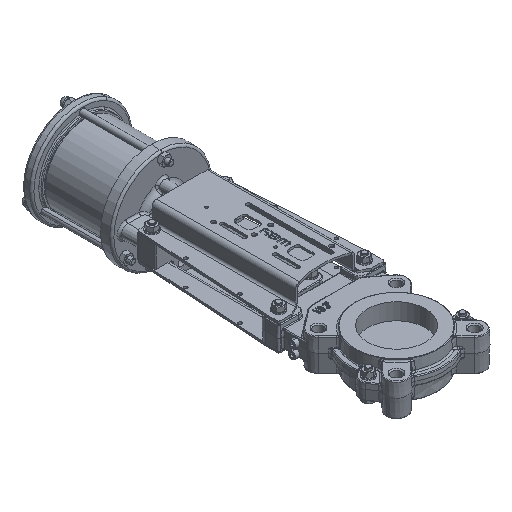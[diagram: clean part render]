
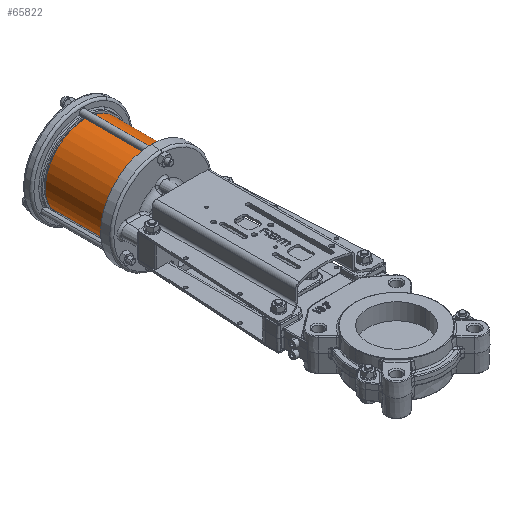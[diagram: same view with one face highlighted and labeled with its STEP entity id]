
A CAD part, isometric view. The second image highlights one B-rep face of the part: STEP entity #65822.
In plain terms, the highlighted cylindrical face has radius 55 mm (diameter 110 mm), a partial arc.
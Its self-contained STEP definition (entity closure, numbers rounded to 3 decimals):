
#230 = CIRCLE ( 'NONE', #23137, 55. ) ;
#5999 = VERTEX_POINT ( 'NONE', #7321 ) ;
#7321 = CARTESIAN_POINT ( 'NONE',  ( -46.927, 340., -28.935 ) ) ;
#15276 = CARTESIAN_POINT ( 'NONE',  ( 0., 336., -0.25 ) ) ;
#15523 = VERTEX_POINT ( 'NONE', #54361 ) ;
#16863 = EDGE_CURVE ( 'NONE', #79913, #5999, #68528, .T. ) ;
#23137 = AXIS2_PLACEMENT_3D ( 'NONE', #95746, #43404, #104569 ) ;
#24012 = CARTESIAN_POINT ( 'NONE',  ( -46.927, 430., -28.935 ) ) ;
#31098 = CARTESIAN_POINT ( 'NONE',  ( -46.927, 336., -28.935 ) ) ;
#32998 = DIRECTION ( 'NONE',  ( 0., -1., 0. ) ) ;
#33515 = VERTEX_POINT ( 'NONE', #103460 ) ;
#38790 = ORIENTED_EDGE ( 'NONE', *, *, #56453, .F. ) ;
#39906 = DIRECTION ( 'NONE',  ( 0., -1., 0. ) ) ;
#43404 = DIRECTION ( 'NONE',  ( 0., -1., 0. ) ) ;
#50937 = DIRECTION ( 'NONE',  ( 0.853, 0., 0.522 ) ) ;
#54361 = CARTESIAN_POINT ( 'NONE',  ( 46.927, 430., 28.435 ) ) ;
#56453 = EDGE_CURVE ( 'NONE', #15523, #33515, #105578, .T. ) ;
#64153 = AXIS2_PLACEMENT_3D ( 'NONE', #92251, #39906, #101033 ) ;
#65822 = ADVANCED_FACE ( 'NONE', ( #82134 ), #94448, .T. ) ;
#68528 = LINE ( 'NONE', #31098, #91760 ) ;
#74227 = DIRECTION ( 'NONE',  ( 0., -1., 0. ) ) ;
#75685 = ORIENTED_EDGE ( 'NONE', *, *, #16863, .T. ) ;
#77118 = ORIENTED_EDGE ( 'NONE', *, *, #79181, .T. ) ;
#79181 = EDGE_CURVE ( 'NONE', #15523, #79913, #230, .T. ) ;
#79451 = CARTESIAN_POINT ( 'NONE',  ( 46.927, 336., 28.435 ) ) ;
#79913 = VERTEX_POINT ( 'NONE', #24012 ) ;
#82134 = FACE_OUTER_BOUND ( 'NONE', #112449, .T. ) ;
#82292 = VECTOR ( 'NONE', #88241, 1000. ) ;
#86859 = CIRCLE ( 'NONE', #64153, 55. ) ;
#88241 = DIRECTION ( 'NONE',  ( 0., -1., 0. ) ) ;
#91760 = VECTOR ( 'NONE', #74227, 1000. ) ;
#92251 = CARTESIAN_POINT ( 'NONE',  ( 0., 340., -0.25 ) ) ;
#94448 = CYLINDRICAL_SURFACE ( 'NONE', #103228, 55. ) ;
#95301 = EDGE_CURVE ( 'NONE', #33515, #5999, #86859, .T. ) ;
#95746 = CARTESIAN_POINT ( 'NONE',  ( 0., 430., -0.25 ) ) ;
#101033 = DIRECTION ( 'NONE',  ( 0.853, 0., 0.522 ) ) ;
#103228 = AXIS2_PLACEMENT_3D ( 'NONE', #15276, #32998, #50937 ) ;
#103460 = CARTESIAN_POINT ( 'NONE',  ( 46.927, 340., 28.435 ) ) ;
#104569 = DIRECTION ( 'NONE',  ( 0.853, 0., 0.522 ) ) ;
#105578 = LINE ( 'NONE', #79451, #82292 ) ;
#108553 = ORIENTED_EDGE ( 'NONE', *, *, #95301, .F. ) ;
#112449 = EDGE_LOOP ( 'NONE', ( #77118, #75685, #108553, #38790 ) ) ;
